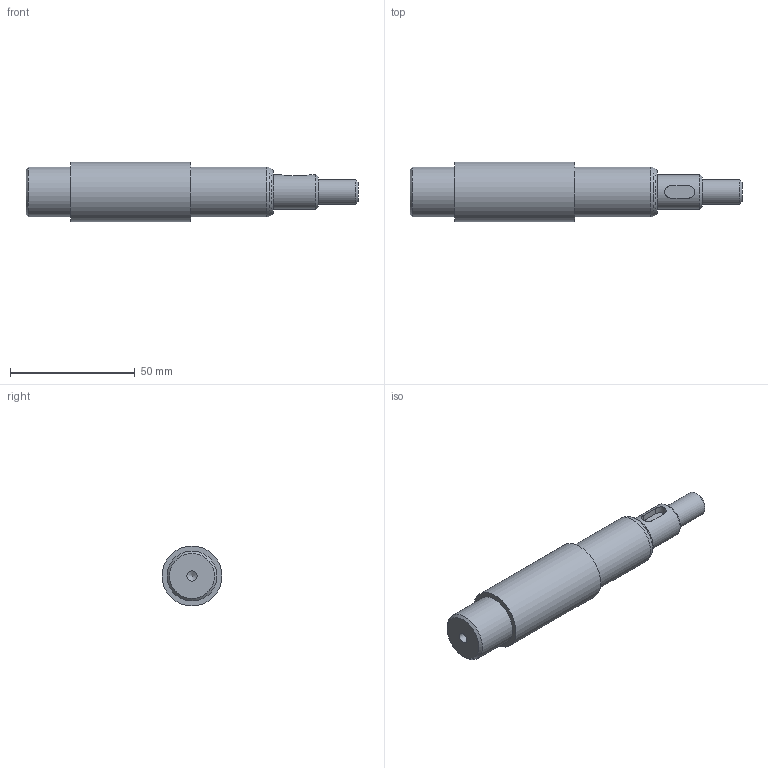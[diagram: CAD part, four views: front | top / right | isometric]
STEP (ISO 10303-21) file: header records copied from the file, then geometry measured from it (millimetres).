
FILE_DESCRIPTION(/* description */ (''),/* implementation_level */ '2;1');
FILE_NAME(/* name */ 'C:\Users\101020202\Desktop\시험\idw(2)~2\391003E1010 (축).stp',/* time_stamp */ '2019-10-26T11:41:01+09:00',/* author */ ('101020202'),/* organization */ (''),/* preprocessor_version */ 'ST-DEVELOPER v15.6',/* originating_system */ 'Autodesk Inventor 2015',/* authorisation */ '');
FILE_SCHEMA (('AUTOMOTIVE_DESIGN { 1 0 10303 214 3 1 1 }'));
Length unit declared in the file: millimetre
Products named in the file (1): 축
Bounding box: 133 x 24 x 24 mm (x, y, z)
Volume: 41272.9 mm3; surface area: 9134 mm2
Topology: 1 solids, 1 shells, 24 faces, 47 edges, 30 vertices
Faces by surface type: plane 9, cylinder 8, cone 5, torus 2
Full cylindrical faces by diameter (mm): 4.134 x1, 10 x1, 14 x1, 20 x2, 24 x1
Entity records: 588 total; most frequent: CARTESIAN_POINT 121, DIRECTION 98, ORIENTED_EDGE 64, AXIS2_PLACEMENT_3D 45, EDGE_LOOP 42, EDGE_CURVE 32, VERTEX_POINT 28, FACE_OUTER_BOUND 24
